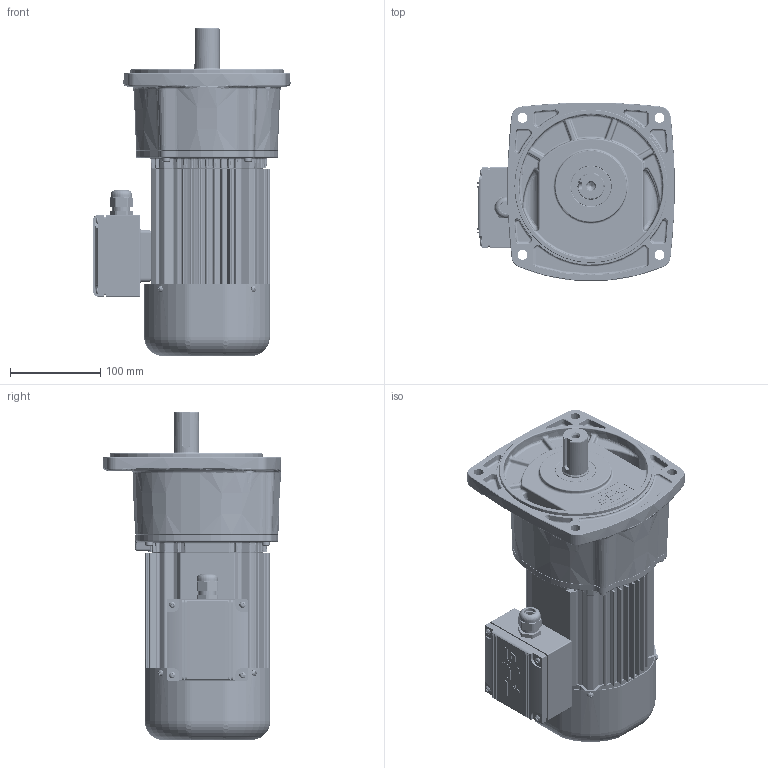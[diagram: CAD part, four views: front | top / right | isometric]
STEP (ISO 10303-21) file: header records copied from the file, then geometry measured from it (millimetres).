
FILE_DESCRIPTION(/* description */ (''),/* implementation_level */ '2;1');
FILE_NAME(/* name */ 'Z:\동력 3D 파일\PAF28_0.4kW_Brake_3D.stp',/* time_stamp */ '2021-11-08T15:21:16+09:00',/* author */ ('jaebok'),/* organization */ (''),/* preprocessor_version */ 'ST-DEVELOPER v18.1',/* originating_system */ 'Autodesk Inventor 2022',/* authorisation */ '');
FILE_SCHEMA (('AUTOMOTIVE_DESIGN { 1 0 10303 214 3 1 1 }'));
Products named in the file (1): 부품10
Bounding box: 218.74 x 198.24 x 364 mm (x, y, z)
Volume: 2086681.1 mm3; surface area: 666152.6 mm2
Topology: 3 solids, 26 shells, 4159 faces, 10411 edges, 6109 vertices
Faces by surface type: plane 1279, cylinder 1080, bspline 1024, torus 369, cone 264, sphere 143
Full cylindrical faces by diameter (mm): 1.5 x2, 2 x5, 3 x8, 3.242 x5, 3.25 x1, 3.3 x4, 3.6 x4, 3.8 x3, 4 x25, 4.2 x12, 4.917 x4, 5 x27, 5.5 x4, 5.8 x2, 5.9 x3, 6 x14, 6.4 x1, 6.5 x6, 7 x12, 7.9 x6, 8 x3, 8.376 x1, 8.5 x5, 8.7 x1, 10 x1, 12.5 x1, 15 x1, 18 x1, 19 x2, 20 x2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
Entity records: 166905 total; most frequent: CARTESIAN_POINT 71174, ORIENTED_EDGE 20156, DIRECTION 17950, EDGE_CURVE 10078, AXIS2_PLACEMENT_3D 7293, VERTEX_POINT 6101, EDGE_LOOP 4449, FACE_OUTER_BOUND 4159
